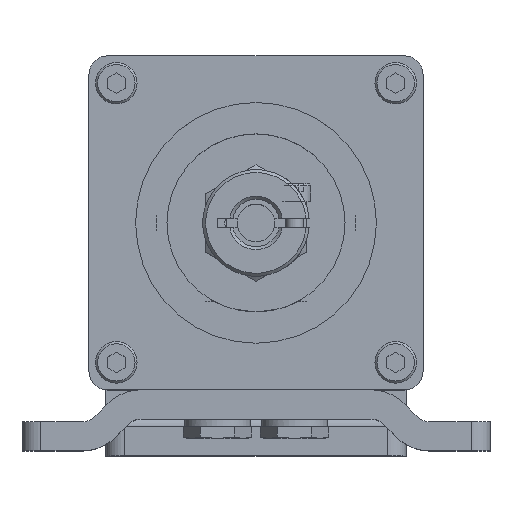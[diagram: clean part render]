
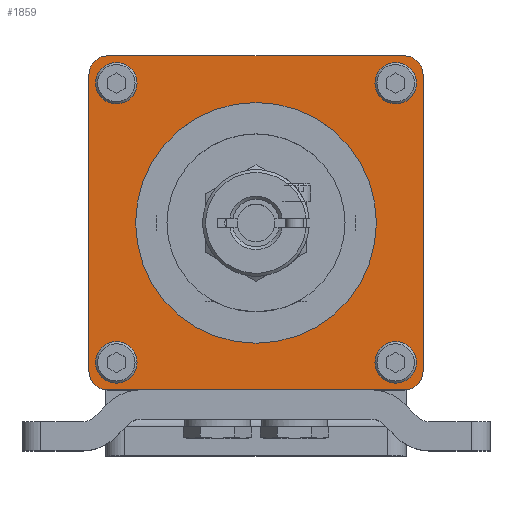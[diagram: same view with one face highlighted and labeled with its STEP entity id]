
A CAD part, top view. The second image highlights one B-rep face of the part: STEP entity #1859.
In plain terms, the highlighted planar face has unit normal (0, 0, 1).
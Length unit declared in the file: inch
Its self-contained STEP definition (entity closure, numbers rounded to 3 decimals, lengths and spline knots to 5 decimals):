
#4 = CARTESIAN_POINT ( 'NONE',  ( -0.985, -1.11, 0.85 ) ) ;
#131 = EDGE_CURVE ( 'NONE', #1032, #8448, #9645, .T. ) ;
#285 = EDGE_LOOP ( 'NONE', ( #1552 ) ) ;
#304 = CIRCLE ( 'NONE', #5016, 0.125 ) ;
#616 = ORIENTED_EDGE ( 'NONE', *, *, #11643, .F. ) ;
#804 = VECTOR ( 'NONE', #1484, 39.37008 ) ;
#865 = FACE_BOUND ( 'NONE', #285, .T. ) ;
#890 = EDGE_CURVE ( 'NONE', #8766, #2059, #10838, .T. ) ;
#946 = CARTESIAN_POINT ( 'NONE',  ( 0.985, 1.11, 0.85 ) ) ;
#1032 = VERTEX_POINT ( 'NONE', #10381 ) ;
#1053 = CARTESIAN_POINT ( 'NONE',  ( 0.985, -0.985, 0.85 ) ) ;
#1068 = LINE ( 'NONE', #946, #1754 ) ;
#1329 = DIRECTION ( 'NONE',  ( 0., 0., 1. ) ) ;
#1351 = LINE ( 'NONE', #5259, #804 ) ;
#1355 = EDGE_LOOP ( 'NONE', ( #616 ) ) ;
#1484 = DIRECTION ( 'NONE',  ( 1., 0., 0. ) ) ;
#1497 = EDGE_LOOP ( 'NONE', ( #2546 ) ) ;
#1552 = ORIENTED_EDGE ( 'NONE', *, *, #9811, .F. ) ;
#1754 = VECTOR ( 'NONE', #3076, 39.37008 ) ;
#1762 = CARTESIAN_POINT ( 'NONE',  ( 0.985, -0.985, 0.85 ) ) ;
#1859 = ADVANCED_FACE ( 'NONE', ( #3056, #865, #12651, #10578, #6947, #8622 ), #2801, .T. ) ;
#2059 = VERTEX_POINT ( 'NONE', #10011 ) ;
#2301 = CARTESIAN_POINT ( 'NONE',  ( 1.00684, 0.9281, 0.85 ) ) ;
#2347 = CARTESIAN_POINT ( 'NONE',  ( -0.8, 0., 0.85 ) ) ;
#2419 = DIRECTION ( 'NONE',  ( -1., 0., 0. ) ) ;
#2546 = ORIENTED_EDGE ( 'NONE', *, *, #8523, .F. ) ;
#2631 = DIRECTION ( 'NONE',  ( 1., 0., 0. ) ) ;
#2641 = EDGE_CURVE ( 'NONE', #7993, #8766, #10705, .T. ) ;
#2652 = DIRECTION ( 'NONE',  ( 0., 0., 1. ) ) ;
#2801 = PLANE ( 'NONE',  #8979 ) ;
#3046 = DIRECTION ( 'NONE',  ( 0., 1., 0. ) ) ;
#3056 = FACE_BOUND ( 'NONE', #1497, .T. ) ;
#3076 = DIRECTION ( 'NONE',  ( -1., 0., 0. ) ) ;
#3140 = DIRECTION ( 'NONE',  ( 0., 0., 1. ) ) ;
#3180 = CARTESIAN_POINT ( 'NONE',  ( 1.11, -0.985, 0.85 ) ) ;
#3305 = CARTESIAN_POINT ( 'NONE',  ( -0.985, 1.11, 0.85 ) ) ;
#3416 = CARTESIAN_POINT ( 'NONE',  ( 1.11, -0.985, 0.85 ) ) ;
#3450 = CARTESIAN_POINT ( 'NONE',  ( 0., 0., 0.85 ) ) ;
#3503 = ORIENTED_EDGE ( 'NONE', *, *, #12328, .F. ) ;
#3547 = AXIS2_PLACEMENT_3D ( 'NONE', #1762, #12505, #9913 ) ;
#3721 = DIRECTION ( 'NONE',  ( 0., 0., 1. ) ) ;
#3823 = DIRECTION ( 'NONE',  ( -1., 0., 0. ) ) ;
#3912 = ORIENTED_EDGE ( 'NONE', *, *, #11293, .T. ) ;
#3958 = CARTESIAN_POINT ( 'NONE',  ( -0.84936, 0.9281, 0.85 ) ) ;
#3962 = AXIS2_PLACEMENT_3D ( 'NONE', #10666, #3721, #12419 ) ;
#4279 = CARTESIAN_POINT ( 'NONE',  ( 1.00684, -0.9281, 0.85 ) ) ;
#4606 = AXIS2_PLACEMENT_3D ( 'NONE', #10923, #3140, #7031 ) ;
#4667 = VECTOR ( 'NONE', #3046, 39.37008 ) ;
#5016 = AXIS2_PLACEMENT_3D ( 'NONE', #7447, #12373, #5579 ) ;
#5117 = CIRCLE ( 'NONE', #10206, 0.8 ) ;
#5241 = DIRECTION ( 'NONE',  ( 1., 0., 0. ) ) ;
#5259 = CARTESIAN_POINT ( 'NONE',  ( 0.985, -1.11, 0.85 ) ) ;
#5316 = EDGE_CURVE ( 'NONE', #8049, #8049, #5481, .T. ) ;
#5481 = CIRCLE ( 'NONE', #9541, 0.07874 ) ;
#5556 = ORIENTED_EDGE ( 'NONE', *, *, #5316, .F. ) ;
#5579 = DIRECTION ( 'NONE',  ( -1., 0., 0. ) ) ;
#5769 = EDGE_CURVE ( 'NONE', #8448, #10878, #11926, .T. ) ;
#6022 = VERTEX_POINT ( 'NONE', #4 ) ;
#6166 = EDGE_LOOP ( 'NONE', ( #3503 ) ) ;
#6360 = VECTOR ( 'NONE', #8169, 39.37008 ) ;
#6456 = ORIENTED_EDGE ( 'NONE', *, *, #5769, .T. ) ;
#6579 = ORIENTED_EDGE ( 'NONE', *, *, #8647, .T. ) ;
#6636 = EDGE_LOOP ( 'NONE', ( #7841, #6456, #6651, #6579, #11751, #8548, #12558, #3912 ) ) ;
#6651 = ORIENTED_EDGE ( 'NONE', *, *, #8168, .T. ) ;
#6710 = CARTESIAN_POINT ( 'NONE',  ( 1.11, 0.985, 0.85 ) ) ;
#6775 = EDGE_CURVE ( 'NONE', #2059, #6022, #8161, .T. ) ;
#6947 = FACE_OUTER_BOUND ( 'NONE', #6636, .T. ) ;
#7031 = DIRECTION ( 'NONE',  ( -1., 0., 0. ) ) ;
#7142 = CARTESIAN_POINT ( 'NONE',  ( -1.11, -0.985, 0.85 ) ) ;
#7339 = DIRECTION ( 'NONE',  ( 0., 0., 1. ) ) ;
#7447 = CARTESIAN_POINT ( 'NONE',  ( 0.985, 0.985, 0.85 ) ) ;
#7573 = DIRECTION ( 'NONE',  ( 1., 0., 0. ) ) ;
#7632 = CARTESIAN_POINT ( 'NONE',  ( -0.84936, -0.9281, 0.85 ) ) ;
#7633 = DIRECTION ( 'NONE',  ( 0., 0., 1. ) ) ;
#7677 = CIRCLE ( 'NONE', #11748, 0.07874 ) ;
#7841 = ORIENTED_EDGE ( 'NONE', *, *, #131, .T. ) ;
#7866 = CARTESIAN_POINT ( 'NONE',  ( 0.985, 1.11, 0.85 ) ) ;
#7993 = VERTEX_POINT ( 'NONE', #3305 ) ;
#8049 = VERTEX_POINT ( 'NONE', #3958 ) ;
#8161 = CIRCLE ( 'NONE', #12036, 0.125 ) ;
#8168 = EDGE_CURVE ( 'NONE', #10878, #8634, #304, .T. ) ;
#8169 = DIRECTION ( 'NONE',  ( 0., -1., 0. ) ) ;
#8421 = CARTESIAN_POINT ( 'NONE',  ( -0.985, -0.985, 0.85 ) ) ;
#8448 = VERTEX_POINT ( 'NONE', #3416 ) ;
#8476 = CARTESIAN_POINT ( 'NONE',  ( -0.9281, -0.9281, 0.85 ) ) ;
#8523 = EDGE_CURVE ( 'NONE', #10146, #10146, #7677, .T. ) ;
#8548 = ORIENTED_EDGE ( 'NONE', *, *, #890, .T. ) ;
#8602 = VERTEX_POINT ( 'NONE', #7632 ) ;
#8622 = FACE_BOUND ( 'NONE', #1355, .T. ) ;
#8634 = VERTEX_POINT ( 'NONE', #7866 ) ;
#8647 = EDGE_CURVE ( 'NONE', #8634, #7993, #1068, .T. ) ;
#8766 = VERTEX_POINT ( 'NONE', #9018 ) ;
#8979 = AXIS2_PLACEMENT_3D ( 'NONE', #1053, #12589, #3823 ) ;
#9018 = CARTESIAN_POINT ( 'NONE',  ( -1.11, 0.985, 0.85 ) ) ;
#9222 = AXIS2_PLACEMENT_3D ( 'NONE', #8476, #2652, #7573 ) ;
#9541 = AXIS2_PLACEMENT_3D ( 'NONE', #11880, #1329, #5241 ) ;
#9645 = CIRCLE ( 'NONE', #3547, 0.125 ) ;
#9811 = EDGE_CURVE ( 'NONE', #11045, #11045, #10077, .T. ) ;
#9913 = DIRECTION ( 'NONE',  ( -1., 0., 0. ) ) ;
#10011 = CARTESIAN_POINT ( 'NONE',  ( -1.11, -0.985, 0.85 ) ) ;
#10077 = CIRCLE ( 'NONE', #3962, 0.07874 ) ;
#10146 = VERTEX_POINT ( 'NONE', #4279 ) ;
#10206 = AXIS2_PLACEMENT_3D ( 'NONE', #3450, #7339, #2419 ) ;
#10381 = CARTESIAN_POINT ( 'NONE',  ( 0.985, -1.11, 0.85 ) ) ;
#10558 = DIRECTION ( 'NONE',  ( 1., 0., 0. ) ) ;
#10578 = FACE_BOUND ( 'NONE', #6166, .T. ) ;
#10666 = CARTESIAN_POINT ( 'NONE',  ( 0.9281, 0.9281, 0.85 ) ) ;
#10705 = CIRCLE ( 'NONE', #4606, 0.125 ) ;
#10838 = LINE ( 'NONE', #7142, #6360 ) ;
#10878 = VERTEX_POINT ( 'NONE', #6710 ) ;
#10923 = CARTESIAN_POINT ( 'NONE',  ( -0.985, 0.985, 0.85 ) ) ;
#11045 = VERTEX_POINT ( 'NONE', #2301 ) ;
#11046 = CIRCLE ( 'NONE', #9222, 0.07874 ) ;
#11091 = VERTEX_POINT ( 'NONE', #2347 ) ;
#11145 = EDGE_LOOP ( 'NONE', ( #5556 ) ) ;
#11293 = EDGE_CURVE ( 'NONE', #6022, #1032, #1351, .T. ) ;
#11496 = DIRECTION ( 'NONE',  ( 0., 0., 1. ) ) ;
#11643 = EDGE_CURVE ( 'NONE', #11091, #11091, #5117, .T. ) ;
#11748 = AXIS2_PLACEMENT_3D ( 'NONE', #12415, #11496, #2631 ) ;
#11751 = ORIENTED_EDGE ( 'NONE', *, *, #2641, .T. ) ;
#11880 = CARTESIAN_POINT ( 'NONE',  ( -0.9281, 0.9281, 0.85 ) ) ;
#11926 = LINE ( 'NONE', #3180, #4667 ) ;
#12036 = AXIS2_PLACEMENT_3D ( 'NONE', #8421, #7633, #10558 ) ;
#12328 = EDGE_CURVE ( 'NONE', #8602, #8602, #11046, .T. ) ;
#12373 = DIRECTION ( 'NONE',  ( 0., 0., 1. ) ) ;
#12415 = CARTESIAN_POINT ( 'NONE',  ( 0.9281, -0.9281, 0.85 ) ) ;
#12419 = DIRECTION ( 'NONE',  ( 1., 0., 0. ) ) ;
#12505 = DIRECTION ( 'NONE',  ( 0., 0., 1. ) ) ;
#12558 = ORIENTED_EDGE ( 'NONE', *, *, #6775, .T. ) ;
#12589 = DIRECTION ( 'NONE',  ( 0., 0., 1. ) ) ;
#12651 = FACE_BOUND ( 'NONE', #11145, .T. ) ;
